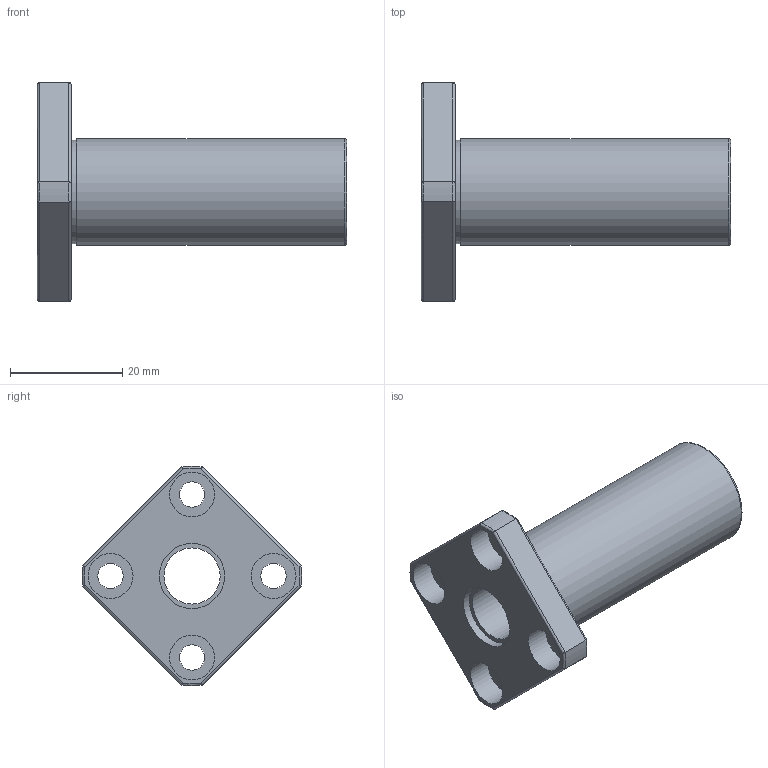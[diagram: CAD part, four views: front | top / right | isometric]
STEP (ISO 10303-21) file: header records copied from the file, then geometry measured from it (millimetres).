
FILE_DESCRIPTION( ( 'Unknown' ), '1' );
FILE_NAME( 'D:/累诀/己绕皋墨飘肺葱胶/11-04-06_档搁累己/01_府聪绢何教/LMK L/LMK 10L.stp', 'Unknown', ( 'Unknown' ), ( 'Unknown' ), 'PSStep 11.0', 'Unknown', ' ' );
FILE_SCHEMA( ( 'AUTOMOTIVE_DESIGN { 1 0 10303 214 1 1 1 1 }' ) );
Length unit declared in the file: millimetre
Products named in the file (1): 1
Bounding box: 55 x 38.99 x 38.98 mm (x, y, z)
Volume: 13807.9 mm3; surface area: 7359.7 mm2
Topology: 1 solids, 1 shells, 48 faces, 105 edges, 67 vertices
Faces by surface type: cylinder 25, plane 14, torus 9
Full cylindrical faces by diameter (mm): 4.5 x4, 8 x4, 10 x1, 11.6 x2, 18.4 x1, 19 x1
Entity records: 1686 total; most frequent: CARTESIAN_POINT 279, DIRECTION 216, ORIENTED_EDGE 174, AXIS2_PLACEMENT_3D 96, EDGE_CURVE 87, EDGE_LOOP 80, VERTEX_POINT 63, FACE_OUTER_BOUND 62
